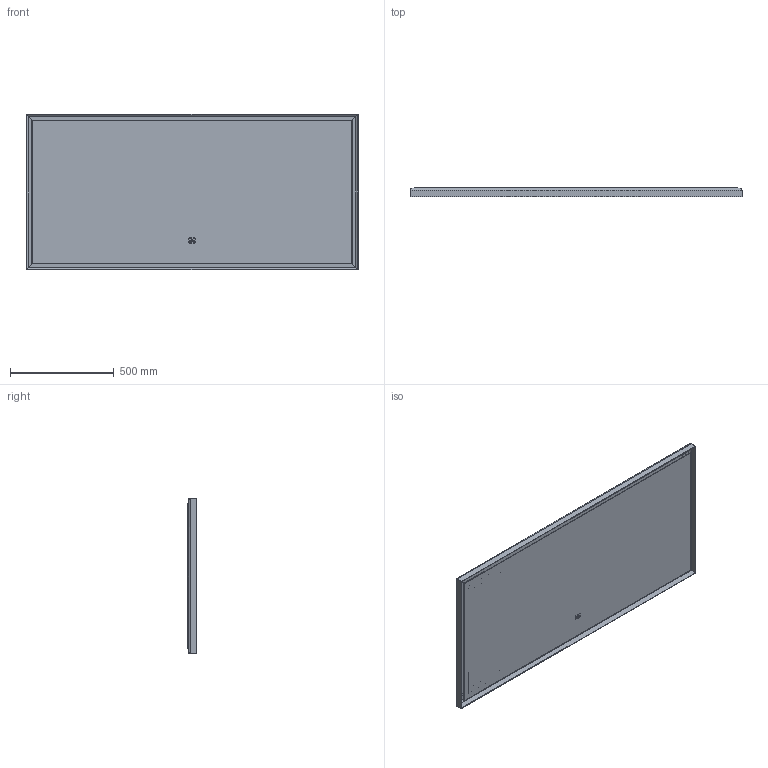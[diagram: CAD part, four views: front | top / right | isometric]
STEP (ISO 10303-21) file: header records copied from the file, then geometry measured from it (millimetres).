
FILE_DESCRIPTION(/* description */ (''),/* implementation_level */ '2;1');
FILE_NAME(/* name */ 'K:\ACAD\PERSPECT\Freisteller\V&B\Subway 3.0\A46316YY.stp',/* time_stamp */ '2020-07-28T15:26:44+02:00',/* author */ ('StegeR'),/* organization */ (''),/* preprocessor_version */ 'ST-DEVELOPER v16.1',/* originating_system */ 'Autodesk Inventor 2016',/* authorisation */ '');
FILE_SCHEMA (('AUTOMOTIVE_DESIGN { 1 0 10303 214 3 1 1 }'));
Length unit declared in the file: millimetre
Products named in the file (1): A46316YY
Bounding box: 1600 x 45.5 x 750 mm (x, y, z)
Volume: 7235032.3 mm3; surface area: 3990887.9 mm2
Topology: 35 solids, 35 shells, 802 faces, 2041 edges, 1358 vertices
Faces by surface type: plane 594, cylinder 200, bspline 8
Full cylindrical faces by diameter (mm): 0.488 x2, 4.4 x12, 5.8 x24
Entity records: 24117 total; most frequent: CARTESIAN_POINT 4308, ORIENTED_EDGE 4006, DIRECTION 4005, EDGE_CURVE 2003, LINE 1575, VECTOR 1575, VERTEX_POINT 1358, AXIS2_PLACEMENT_3D 1215
